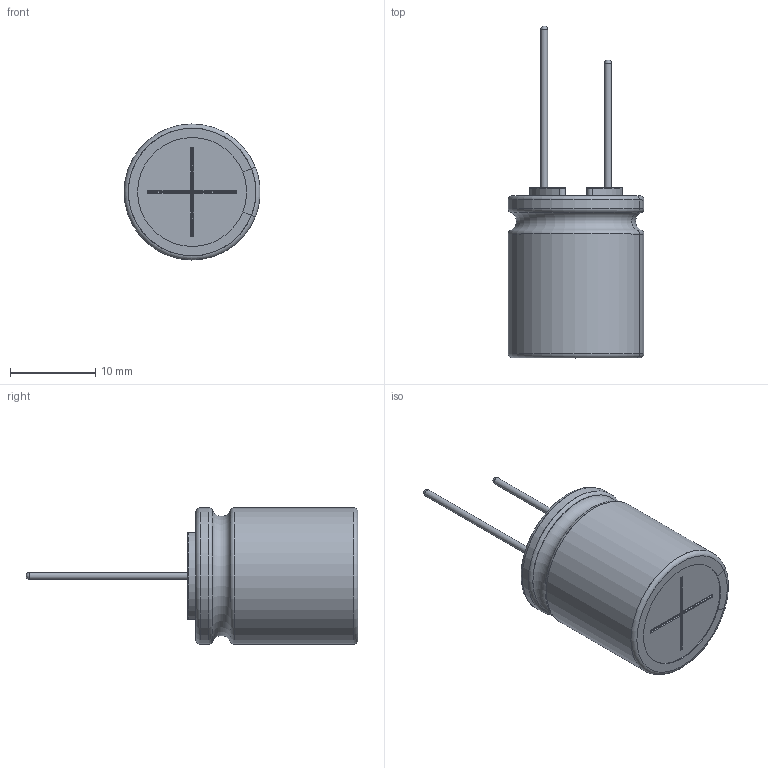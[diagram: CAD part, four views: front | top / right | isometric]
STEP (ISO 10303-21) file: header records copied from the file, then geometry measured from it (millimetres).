
FILE_DESCRIPTION(/* description */ (''),/* implementation_level */ '2;1');
FILE_NAME(/* name */ '16x20_Lead.stp',/* time_stamp */ '2017-09-05T14:41:22+09:00',/* author */ (''),/* organization */ (''),/* preprocessor_version */ 'ST-DEVELOPER v16',/* originating_system */ 'SIEMENS PLM Software NX 11.0',/* authorisation */ '');
FILE_SCHEMA (('AUTOMOTIVE_DESIGN { 1 0 10303 214 3 1 1 1 }'));
Length unit declared in the file: millimetre
Products named in the file (1): 16x20_Lead_0
Bounding box: 15.98 x 39 x 16 mm (x, y, z)
Volume: 3783.5 mm3; surface area: 3694.8 mm2
Topology: 3 solids, 3 shells, 132 faces, 328 edges, 205 vertices
Faces by surface type: cylinder 50, torus 35, plane 33, sphere 6, bspline 6, extrusion 2
Full cylindrical faces by diameter (mm): 0.8 x2, 15.8 x2
Entity records: 5217 total; most frequent: CARTESIAN_POINT 1367, DIRECTION 748, ORIENTED_EDGE 624, EDGE_CURVE 312, AXIS2_PLACEMENT_3D 311, VERTEX_POINT 200, CIRCLE 174, EDGE_LOOP 146
